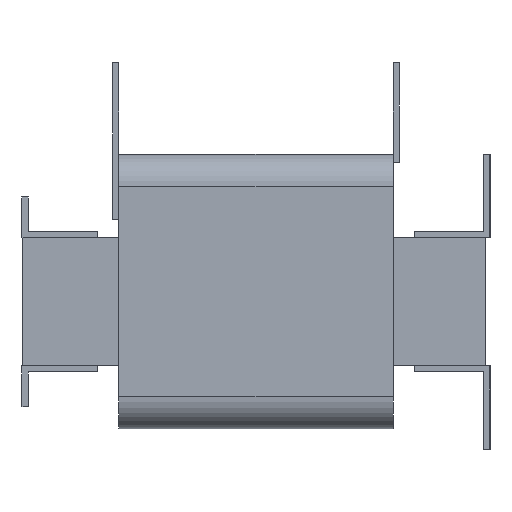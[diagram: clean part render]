
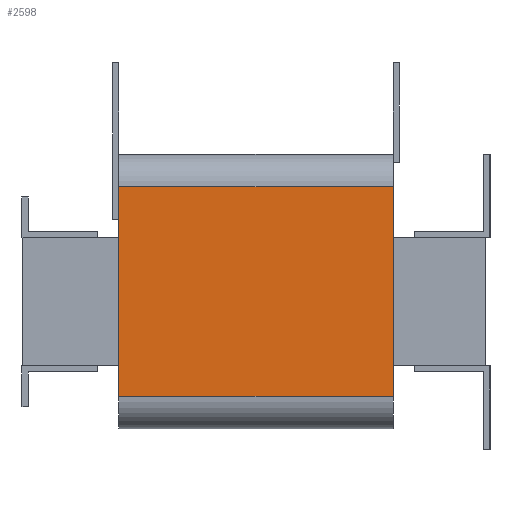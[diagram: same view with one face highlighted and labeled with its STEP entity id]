
A CAD part, left-side view. The second image highlights one B-rep face of the part: STEP entity #2598.
In plain terms, the highlighted planar face has unit normal (-1, 0, 0).
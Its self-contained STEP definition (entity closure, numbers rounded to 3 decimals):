
#102=PLANE('',#2804);
#231=FACE_OUTER_BOUND('',#381,.T.);
#381=EDGE_LOOP('',(#2166,#2167,#2168,#2169));
#630=LINE('',#4035,#948);
#649=LINE('',#4085,#967);
#650=LINE('',#4088,#968);
#651=LINE('',#4089,#969);
#948=VECTOR('',#3290,10.);
#967=VECTOR('',#3335,10.);
#968=VECTOR('',#3338,10.);
#969=VECTOR('',#3339,10.);
#1291=VERTEX_POINT('',#4032);
#1292=VERTEX_POINT('',#4034);
#1310=VERTEX_POINT('',#4083);
#1311=VERTEX_POINT('',#4087);
#1601=EDGE_CURVE('',#1291,#1292,#630,.T.);
#1627=EDGE_CURVE('',#1310,#1291,#649,.T.);
#1628=EDGE_CURVE('',#1310,#1311,#650,.T.);
#1629=EDGE_CURVE('',#1292,#1311,#651,.T.);
#2166=ORIENTED_EDGE('',*,*,#1627,.F.);
#2167=ORIENTED_EDGE('',*,*,#1628,.T.);
#2168=ORIENTED_EDGE('',*,*,#1629,.F.);
#2169=ORIENTED_EDGE('',*,*,#1601,.F.);
#2598=ADVANCED_FACE('',(#231),#102,.T.);
#2804=AXIS2_PLACEMENT_3D('',#4086,#3336,#3337);
#3290=DIRECTION('',(0.,0.,1.));
#3335=DIRECTION('',(0.,1.,0.));
#3336=DIRECTION('center_axis',(-1.,0.,0.));
#3337=DIRECTION('ref_axis',(0.,0.,1.));
#3338=DIRECTION('',(0.,0.,1.));
#3339=DIRECTION('',(0.,-1.,0.));
#4032=CARTESIAN_POINT('',(-166.,182.5,-46.5));
#4034=CARTESIAN_POINT('',(-166.,182.5,56.5));
#4035=CARTESIAN_POINT('',(-166.,182.5,-62.5));
#4083=CARTESIAN_POINT('',(-166.,47.5,-46.5));
#4085=CARTESIAN_POINT('',(-166.,47.5,-46.5));
#4086=CARTESIAN_POINT('Origin',(-166.,47.5,-62.5));
#4087=CARTESIAN_POINT('',(-166.,47.5,56.5));
#4088=CARTESIAN_POINT('',(-166.,47.5,-62.5));
#4089=CARTESIAN_POINT('',(-166.,47.5,56.5));
